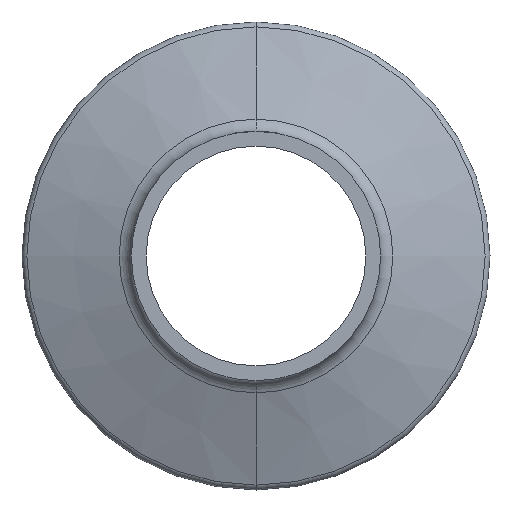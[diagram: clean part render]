
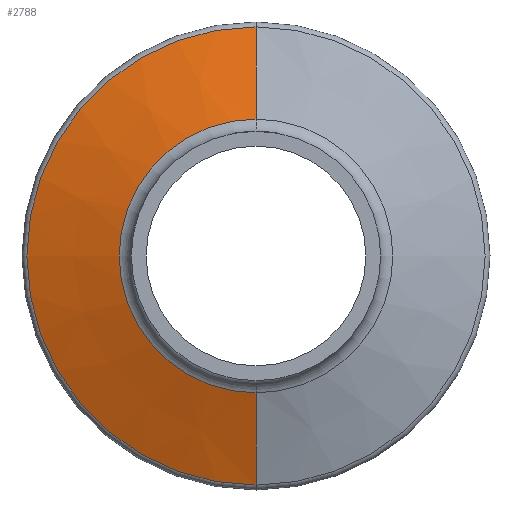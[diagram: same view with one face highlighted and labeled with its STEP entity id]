
A CAD part, front view. The second image highlights one B-rep face of the part: STEP entity #2788.
In plain terms, the highlighted conical face has half-angle 70 degrees and reference radius 19.745 mm.
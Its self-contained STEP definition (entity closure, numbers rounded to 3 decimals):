
#170=CARTESIAN_POINT('',(0.,-3.042,0.));
#171=DIRECTION('',(0.,-1.,0.));
#172=DIRECTION('',(0.,0.,1.));
#173=AXIS2_PLACEMENT_3D('',#170,#171,#172);
#190=DIRECTION('',(0.,-0.342,-0.94));
#191=VECTOR('',#190,10.597);
#192=CARTESIAN_POINT('',(0.,-3.042,24.724));
#193=LINE('',#192,#191);
#194=DIRECTION('',(0.,-0.342,0.94));
#195=VECTOR('',#194,10.597);
#196=CARTESIAN_POINT('',(0.,-3.042,-24.724));
#197=LINE('',#196,#195);
#1775=CARTESIAN_POINT('',(0.,-6.666,0.));
#1776=DIRECTION('',(0.,-1.,0.));
#1777=DIRECTION('',(0.,0.,1.));
#1778=AXIS2_PLACEMENT_3D('',#1775,#1776,#1777);
#2166=CARTESIAN_POINT('',(0.,-6.666,14.766));
#2167=CARTESIAN_POINT('',(0.,-6.666,-14.766));
#2168=VERTEX_POINT('',#2166);
#2169=VERTEX_POINT('',#2167);
#2170=CARTESIAN_POINT('',(0.,-3.042,24.724));
#2171=CARTESIAN_POINT('',(0.,-3.042,-24.724));
#2172=VERTEX_POINT('',#2170);
#2173=VERTEX_POINT('',#2171);
#2774=CARTESIAN_POINT('',(0.,-4.854,0.));
#2775=DIRECTION('',(0.,1.,0.));
#2776=DIRECTION('',(0.,0.,-1.));
#2777=AXIS2_PLACEMENT_3D('',#2774,#2775,#2776);
#2778=CONICAL_SURFACE('',#2777,19.745,70.);
#2780=ORIENTED_EDGE('',*,*,#2779,.T.);
#2782=ORIENTED_EDGE('',*,*,#2781,.T.);
#2784=ORIENTED_EDGE('',*,*,#2783,.F.);
#2785=ORIENTED_EDGE('',*,*,#2764,.F.);
#2786=EDGE_LOOP('',(#2780,#2782,#2784,#2785));
#2787=FACE_OUTER_BOUND('',#2786,.F.);
#2788=ADVANCED_FACE('',(#2787),#2778,.T.);
#174=CIRCLE('',#173,24.724);
#1779=CIRCLE('',#1778,14.766);
#2764=EDGE_CURVE('',#2172,#2173,#174,.T.);
#2779=EDGE_CURVE('',#2172,#2168,#193,.T.);
#2781=EDGE_CURVE('',#2168,#2169,#1779,.T.);
#2783=EDGE_CURVE('',#2173,#2169,#197,.T.);
